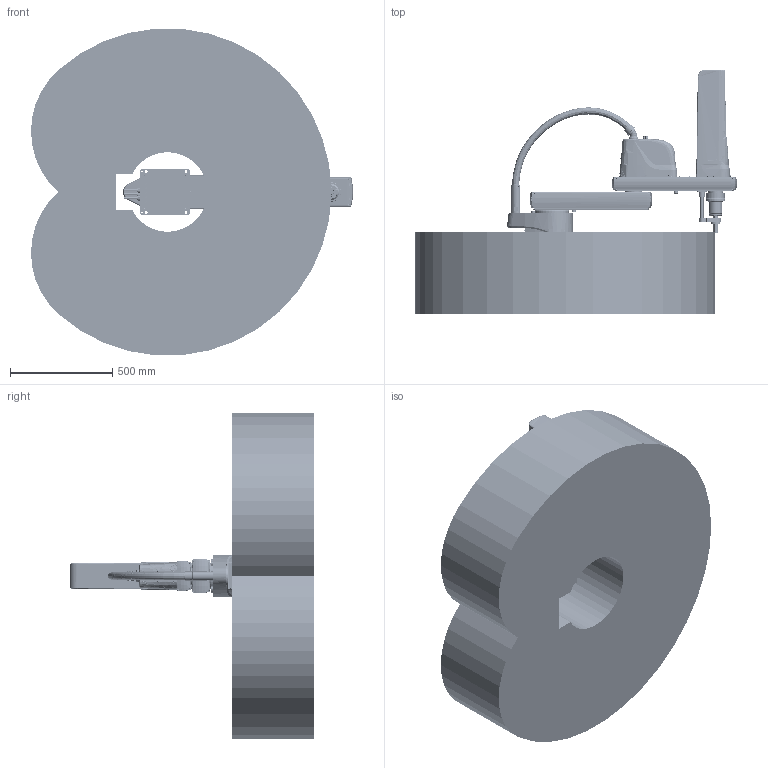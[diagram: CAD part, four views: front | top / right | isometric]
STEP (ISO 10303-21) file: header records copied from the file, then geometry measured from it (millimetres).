
FILE_DESCRIPTION (( 'STEP AP203' ), '1' );
FILE_NAME ('TRH010-800-400-H_机器人（STEP）.STEP', '2025-06-30T09:26:03', ( 'Windows User' ), ( 'P R C' ), 'SwSTEP 2.0', 'SolidWorks 2023', '' );
FILE_SCHEMA (( 'CONFIG_CONTROL_DESIGN' ));
Length unit declared in the file: millimetre
Products named in the file (7): 复件 TRH010-800-400-H-3^TRH010-800-400-H-可拖动机器（SW2023）; 复件 TRH010-800-400-H-4^TRH010-800-400-H-可拖动机器（SW2023）; 复件 TRH010-800-400-H-5^TRH010-800-400-H-可拖动机器（SW2023）; TRH010-800-400-H_机器人（STEP）; 复件 TRH010-800-400-H-2^TRH010-800-400-H-可拖动机器（SW2023）; 复件 TRH010-800-400-H-1^TRH010-800-400-H-可拖动机器（SW2023）; 复件 TRH010-800_Space^TRH010-800-400-H-可拖动机器（SW2023）
Assembly tree (6 placements, depth 2):
  TRH010-800-400-H_机器人（STEP）
    复件 TRH010-800-400-H-1^TRH010-800-400-H-可拖动机器（SW2023）
    复件 TRH010-800-400-H-2^TRH010-800-400-H-可拖动机器（SW2023）
    复件 TRH010-800-400-H-3^TRH010-800-400-H-可拖动机器（SW2023）
    复件 TRH010-800-400-H-4^TRH010-800-400-H-可拖动机器（SW2023）
    复件 TRH010-800-400-H-5^TRH010-800-400-H-可拖动机器（SW2023）
    复件 TRH010-800_Space^TRH010-800-400-H-可拖动机器（SW2023）
Bounding box: 1573.25 x 1194 x 1595.53 mm (x, y, z)
Volume: 750249588.8 mm3; surface area: 8127659.1 mm2
Topology: 37 solids, 186 shells, 8053 faces, 19349 edges, 11865 vertices
Faces by surface type: plane 3145, cylinder 2507, cone 1165, bspline 930, torus 237, sphere 69
Entity records: 287162 total; most frequent: CARTESIAN_POINT 104365, DIRECTION 37995, ORIENTED_EDGE 37882, EDGE_CURVE 18941, AXIS2_PLACEMENT_3D 14786, VERTEX_POINT 11860, EDGE_LOOP 8967, VECTOR 8423
